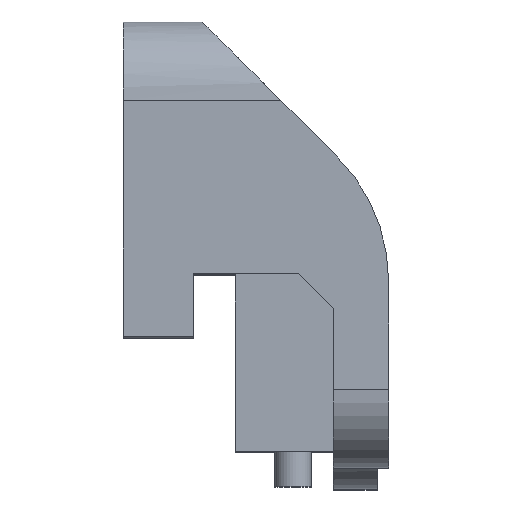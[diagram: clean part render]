
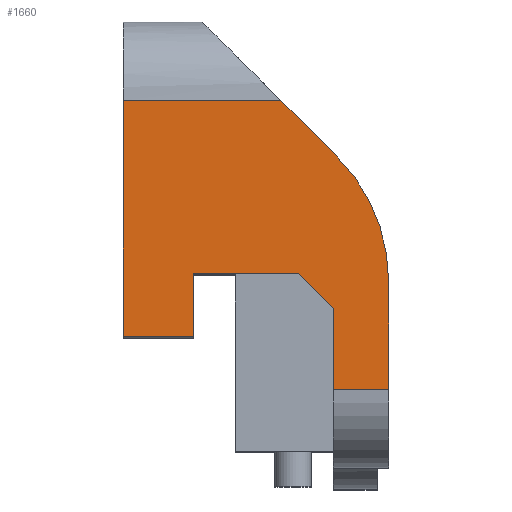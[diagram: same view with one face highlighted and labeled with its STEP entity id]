
A CAD part, top view. The second image highlights one B-rep face of the part: STEP entity #1660.
In plain terms, the highlighted planar face has unit normal (0, 0, 1).
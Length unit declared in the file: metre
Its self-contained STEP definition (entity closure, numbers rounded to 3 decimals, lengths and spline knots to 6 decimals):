
#77=CIRCLE('',#1798,0.01);
#380=ORIENTED_EDGE('',*,*,#768,.F.);
#381=ORIENTED_EDGE('',*,*,#769,.T.);
#382=ORIENTED_EDGE('',*,*,#698,.T.);
#383=ORIENTED_EDGE('',*,*,#770,.F.);
#384=ORIENTED_EDGE('',*,*,#771,.T.);
#385=ORIENTED_EDGE('',*,*,#772,.T.);
#386=ORIENTED_EDGE('',*,*,#773,.F.);
#387=ORIENTED_EDGE('',*,*,#766,.T.);
#388=ORIENTED_EDGE('',*,*,#738,.F.);
#389=ORIENTED_EDGE('',*,*,#774,.F.);
#390=ORIENTED_EDGE('',*,*,#775,.T.);
#698=EDGE_CURVE('',#916,#915,#1084,.T.);
#738=EDGE_CURVE('',#949,#950,#1119,.T.);
#766=EDGE_CURVE('',#966,#950,#1138,.T.);
#768=EDGE_CURVE('',#967,#968,#1139,.T.);
#769=EDGE_CURVE('',#967,#916,#1140,.T.);
#770=EDGE_CURVE('',#969,#915,#1141,.T.);
#771=EDGE_CURVE('',#969,#970,#1142,.T.);
#772=EDGE_CURVE('',#970,#971,#77,.T.);
#773=EDGE_CURVE('',#966,#971,#1143,.T.);
#774=EDGE_CURVE('',#972,#949,#1144,.T.);
#775=EDGE_CURVE('',#972,#968,#1145,.T.);
#915=VERTEX_POINT('',#2543);
#916=VERTEX_POINT('',#2545);
#949=VERTEX_POINT('',#2621);
#950=VERTEX_POINT('',#2623);
#966=VERTEX_POINT('',#2677);
#967=VERTEX_POINT('',#2681);
#968=VERTEX_POINT('',#2682);
#969=VERTEX_POINT('',#2685);
#970=VERTEX_POINT('',#2687);
#971=VERTEX_POINT('',#2689);
#972=VERTEX_POINT('',#2692);
#1084=LINE('',#2544,#1282);
#1119=LINE('',#2622,#1317);
#1138=LINE('',#2676,#1336);
#1139=LINE('',#2680,#1337);
#1140=LINE('',#2683,#1338);
#1141=LINE('',#2684,#1339);
#1142=LINE('',#2686,#1340);
#1143=LINE('',#2690,#1341);
#1144=LINE('',#2691,#1342);
#1145=LINE('',#2693,#1343);
#1282=VECTOR('',#2048,1.);
#1317=VECTOR('',#2101,1.);
#1336=VECTOR('',#2158,1.);
#1337=VECTOR('',#2163,1.);
#1338=VECTOR('',#2164,1.);
#1339=VECTOR('',#2165,1.);
#1340=VECTOR('',#2166,1.);
#1341=VECTOR('',#2169,1.);
#1342=VECTOR('',#2170,1.);
#1343=VECTOR('',#2171,1.);
#1434=EDGE_LOOP('',(#380,#381,#382,#383,#384,#385,#386,#387,#388,#389,#390));
#1518=FACE_BOUND('',#1434,.T.);
#1585=PLANE('',#1797);
#1660=ADVANCED_FACE('',(#1518),#1585,.T.);
#1797=AXIS2_PLACEMENT_3D('',#2679,#2161,#2162);
#1798=AXIS2_PLACEMENT_3D('',#2688,#2167,#2168);
#2048=DIRECTION('',(0.,-1.,0.));
#2101=DIRECTION('',(0.,1.,0.));
#2158=DIRECTION('',(-1.,0.,0.));
#2161=DIRECTION('',(0.,0.,1.));
#2162=DIRECTION('',(1.,0.,0.));
#2163=DIRECTION('',(-1.,0.,0.));
#2164=DIRECTION('',(0.707,-0.707,0.));
#2165=DIRECTION('',(-1.,0.,0.));
#2166=DIRECTION('',(0.,1.,0.));
#2167=DIRECTION('',(0.,0.,1.));
#2168=DIRECTION('',(1.,0.,0.));
#2169=DIRECTION('',(0.707,-0.707,0.));
#2170=DIRECTION('',(-1.,0.,0.));
#2171=DIRECTION('',(0.,1.,0.));
#2543=CARTESIAN_POINT('',(0.1115,0.002562,0.007895));
#2544=CARTESIAN_POINT('',(0.1115,0.0031,0.007895));
#2545=CARTESIAN_POINT('',(0.1115,0.0072,0.007895));
#2621=CARTESIAN_POINT('',(0.0995,0.0056,0.007895));
#2622=CARTESIAN_POINT('',(0.0995,0.010812,0.007895));
#2623=CARTESIAN_POINT('',(0.0995,0.019062,0.007895));
#2676=CARTESIAN_POINT('',(0.114,0.019062,0.007895));
#2677=CARTESIAN_POINT('',(0.1085,0.019062,0.007895));
#2679=CARTESIAN_POINT('',(0.114,0.010812,0.007895));
#2680=CARTESIAN_POINT('',(0.1015,0.0092,0.007895));
#2681=CARTESIAN_POINT('',(0.1095,0.0092,0.007895));
#2682=CARTESIAN_POINT('',(0.1035,0.0092,0.007895));
#2683=CARTESIAN_POINT('',(0.1105,0.0082,0.007895));
#2684=CARTESIAN_POINT('',(0.114,0.002562,0.007895));
#2685=CARTESIAN_POINT('',(0.11465,0.002562,0.007895));
#2686=CARTESIAN_POINT('',(0.11465,0.010812,0.007895));
#2687=CARTESIAN_POINT('',(0.11465,0.00877,0.007895));
#2688=CARTESIAN_POINT('',(0.10465,0.00877,0.007895));
#2689=CARTESIAN_POINT('',(0.111721,0.015841,0.007895));
#2690=CARTESIAN_POINT('',(0.115375,0.012187,0.007895));
#2691=CARTESIAN_POINT('',(0.1035,0.0056,0.007895));
#2692=CARTESIAN_POINT('',(0.1035,0.0056,0.007895));
#2693=CARTESIAN_POINT('',(0.1035,0.00635,0.007895));
